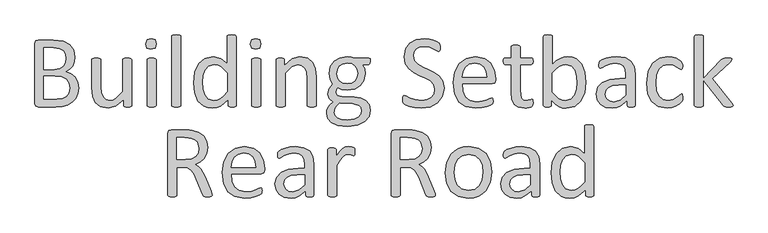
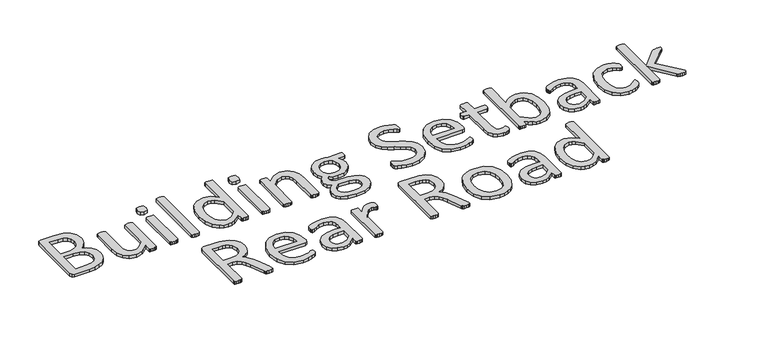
"""IFC4 building model written with IfcOpenShell, lengths in millimetres: proxy geometry, Marker-Setback Bldg Distance : Setback-Building-Rear Road."""

from ifc_helpers import new_model, si_unit, origin, origin_with_axes, place, context, project, spatial, polyline, outline, extrude, source, transform, mapped, element, save


def generic_models_8ed49101(model_context):
    return source(origin(), model_context, "Body", "SweptSolid", [
        extrude(outline(polyline([(2948.652928, 103.9978258), (2946.2704862, 86.8080563), (2939.5755234, 72.6340358), (2929.2013467, 61.6265518), (2915.5098461, 53.6649743), (2899.1946438, 48.8397759), (2879.2907001, 47.2414289), (2827.2388718, 47.2414289), (2820.5740664, 49.6540281), (2817.4075299, 58.0981254), (2817.4075299, 237.1129882), (2820.6042239, 245.5570855), (2827.3595017, 247.9696848), (2872.9576272, 247.9696848), (2902.4818102, 244.5015734), (2921.6318166, 234.4289716), (2933.1821354, 218.2042418), (2937.0724517, 196.4606912), (2935.3534747, 182.6184031), (2930.3171738, 170.4046195), (2921.9333915, 160.3923327), (2910.3529152, 153.1545351), (2925.3110304, 147.5753993), (2937.4343416, 137.2313801), (2945.6371789, 122.5446823), (2948.652928, 103.9978258)]), holes=[polyline([(2910.0513403, 192.8417924), (2908.0307885, 206.1714031), (2901.6977155, 216.2741624), (2890.4188141, 222.6072354), (2871.9925875, 224.8087322), (2844.4286413, 224.8087322), (2844.4286413, 159.1860331), (2874.7670766, 159.1860331), (2891.4743262, 161.9303648), (2901.9992904, 169.2887924), (2908.1212609, 180.085174), (2910.0513403, 192.8417924)]), polyline([(2921.6318166, 103.7565658), (2918.7970125, 119.3178309), (2910.5037027, 130.5967323), (2896.812202, 137.5329551), (2876.0940062, 139.8852393), (2844.4286413, 139.8852393), (2844.4286413, 70.4023815), (2882.849284, 70.4023815), (2898.7121239, 72.5435633), (2910.6243326, 78.8766363), (2918.70654, 89.311128), (2921.6318166, 103.7565658)])]), origin_with_axes(), (0.0, 0.0, 1.0), 10.0),
        extrude(outline(polyline([(3106.9194374, 51.9459974), (3106.3464451, 49.8952881), (3104.3258932, 48.4477285), (3100.495892, 47.5430038), (3094.7358113, 47.2414289), (3088.5836833, 47.5430038), (3084.8441545, 48.4477285), (3082.9743901, 49.8952881), (3082.4918702, 51.9459974), (3082.4918702, 70.1008066), (3059.3610751, 49.7746581), (3036.23028, 43.3812701), (3013.1899574, 48.0255236), (2998.0508972, 60.6011971), (2989.7575873, 79.1178962), (2987.2545156, 104.8422355), (2987.2545156, 189.1625786), (2987.827508, 191.2132879), (2990.0290048, 192.7513199), (2994.2510534, 193.6862021), (3000.7650713, 193.927462), (3007.2790892, 193.6862021), (3011.4106654, 192.7814774), (3013.6121622, 191.2736029), (3014.275627, 189.1625786), (3014.275627, 109.0642841), (3015.9644465, 89.7333328), (3021.1515348, 77.3386043), (3029.957522, 69.3770268), (3042.382408, 66.5422227), (3051.527667, 68.2385816), (3060.6276897, 73.3276581), (3079.898326, 93.2617592), (3079.898326, 189.2228935), (3080.4713184, 191.2736029), (3082.6728152, 192.7814774), (3086.8345488, 193.6862021), (3093.4088817, 193.927462), (3099.9228996, 193.6862021), (3103.9941608, 192.7814774), (3106.1956576, 191.2736029), (3106.9194374, 189.2228935), (3106.9194374, 51.9459974)])), origin_with_axes(), (0.0, 0.0, 1.0), 10.0),
        extrude(outline(polyline([(3180.262454, 236.5701534), (3176.94513, 224.2357399), (3164.640874, 220.9485734), (3152.6381928, 224.1452674), (3149.3811838, 236.2082635), (3152.6985078, 248.5426771), (3165.0027639, 251.8298435), (3177.005445, 248.6331496), (3180.262454, 236.5701534)])), origin_with_axes(), (0.0, 0.0, 1.0), 10.0),
        extrude(outline(polyline([(3180.262454, 51.9459974), (3179.5989892, 49.8952881), (3177.4578074, 48.4477285), (3173.3865462, 47.5430038), (3166.6915833, 47.2414289), (3160.1172504, 47.5430038), (3155.9555167, 48.4477285), (3153.8143349, 49.8952881), (3153.2413426, 51.9459974), (3153.2413426, 189.2228935), (3153.8143349, 191.1831304), (3155.9555167, 192.7211624), (3160.1172504, 193.6258871), (3166.6915833, 193.927462), (3173.3865462, 193.6258871), (3177.4578074, 192.7211624), (3179.5989892, 191.1831304), (3180.262454, 189.2228935), (3180.262454, 51.9459974)])), origin_with_axes(), (0.0, 0.0, 1.0), 10.0),
        extrude(outline(polyline([(3253.6054705, 52.0063124), (3252.9420058, 49.955603), (3250.8008239, 48.477886), (3246.7295627, 47.5430038), (3240.0345999, 47.2414289), (3233.460267, 47.5430038), (3229.2985333, 48.477886), (3227.1573515, 49.955603), (3226.5843592, 52.0063124), (3226.5843592, 258.4644914), (3227.1573515, 260.6358307), (3229.2985333, 262.1738627), (3233.460267, 263.1087449), (3240.0345999, 263.4103198), (3246.7295627, 263.1087449), (3250.8008239, 262.1738627), (3252.9420058, 260.6358307), (3253.6054705, 258.4644914), (3253.6054705, 52.0063124)])), origin_with_axes(), (0.0, 0.0, 1.0), 10.0),
        extrude(outline(polyline([(3419.5922975, 52.0666274), (3419.0193052, 49.8651306), (3417.0590683, 48.3874135), (3413.410012, 47.5430038), (3407.8911913, 47.2414289), (3402.1612681, 47.5430038), (3398.4217393, 48.3270986), (3396.310715, 49.6841856), (3395.6472502, 51.7047375), (3395.6472502, 68.834192), (3373.2402348, 50.1063905), (3361.0792268, 45.0625502), (3347.8174704, 43.3812701), (3333.8545524, 44.8816053), (3322.1232887, 49.3826107), (3304.9033617, 65.6073405), (3295.2529647, 89.6730178), (3292.2070582, 118.774996), (3296.006902, 151.4958731), (3307.2254884, 176.4059601), (3325.6215575, 192.2386426), (3351.0141644, 197.7876208), (3372.9386599, 192.38943), (3392.5711861, 176.5567476), (3392.5711861, 258.4041764), (3393.1441785, 260.5152008), (3395.3456753, 262.0833903), (3399.5074089, 263.0182725), (3405.9007969, 263.4103198), (3412.5957598, 263.0182725), (3416.6670209, 262.0833903), (3418.8685177, 260.5453582), (3419.5922975, 258.4644914), (3419.5922975, 52.0666274)]), holes=[polyline([(3392.5711861, 149.0531164), (3373.2100773, 168.0824928), (3363.6652316, 172.9906243), (3353.7283386, 174.6266682), (3337.7448687, 170.0427297), (3327.0691171, 157.949576), (3321.097934, 140.9407515), (3319.2281696, 121.6701151), (3320.7963591, 101.2836516), (3326.2548648, 83.6113623), (3336.5687265, 71.2166337), (3352.7029839, 66.5422227), (3362.1724359, 67.8993098), (3371.5212579, 72.3927759), (3381.5033872, 80.5352983), (3392.5711861, 92.8998693), (3392.5711861, 149.0531164)])]), origin_with_axes(), (0.0, 0.0, 1.0), 10.0),
        extrude(outline(polyline([(3492.9353141, 236.5701534), (3489.6179901, 224.2357399), (3477.3137341, 220.9485734), (3465.3110529, 224.1452674), (3462.0540439, 236.2082635), (3465.3713679, 248.5426771), (3477.675624, 251.8298435), (3489.6783051, 248.6331496), (3492.9353141, 236.5701534)])), origin_with_axes(), (0.0, 0.0, 1.0), 10.0),
        extrude(outline(polyline([(3492.9353141, 51.9459974), (3492.2718493, 49.8952881), (3490.1306675, 48.4477285), (3486.0594063, 47.5430038), (3479.3644434, 47.2414289), (3472.7901105, 47.5430038), (3468.6283768, 48.4477285), (3466.487195, 49.8952881), (3465.9142027, 51.9459974), (3465.9142027, 189.2228935), (3466.487195, 191.1831304), (3468.6283768, 192.7211624), (3472.7901105, 193.6258871), (3479.3644434, 193.927462), (3486.0594063, 193.6258871), (3490.1306675, 192.7211624), (3492.2718493, 191.1831304), (3492.9353141, 189.2228935), (3492.9353141, 51.9459974)])), origin_with_axes(), (0.0, 0.0, 1.0), 10.0),
        extrude(outline(polyline([(3658.922141, 52.0063124), (3658.2586763, 49.955603), (3656.1174944, 48.477886), (3652.0462332, 47.5430038), (3645.4719003, 47.2414289), (3638.7769375, 47.5430038), (3634.7056763, 48.4477285), (3632.5644945, 49.8952881), (3631.9010297, 52.0063124), (3631.9010297, 132.5871266), (3630.1217378, 151.5260306), (3624.9648069, 163.9207591), (3616.1889772, 171.8823366), (3603.7339337, 174.6266682), (3585.428337, 167.9015478), (3566.2783306, 148.1483917), (3566.2783306, 52.0063124), (3565.6148659, 49.8952881), (3563.473684, 48.4477285), (3559.4024228, 47.5430038), (3552.70746, 47.2414289), (3546.1331271, 47.5430038), (3541.9713934, 48.4477285), (3539.8302116, 49.8952881), (3539.2572193, 51.9459974), (3539.2572193, 189.2228935), (3539.7397391, 191.2736029), (3541.699976, 192.7814774), (3545.4696623, 193.6862021), (3551.5614754, 193.927462), (3557.5326584, 193.6862021), (3561.2118723, 192.7814774), (3563.1117942, 191.2736029), (3563.6847865, 189.2228935), (3563.6847865, 171.0680843), (3586.7552666, 191.3640754), (3609.9463767, 197.7876208), (3632.9866993, 193.0830523), (3648.1257595, 180.5073788), (3656.4190693, 162.0811522), (3658.922141, 136.6885453), (3658.922141, 52.0063124)])), origin_with_axes(), (0.0, 0.0, 1.0), 10.0),
        extrude(outline(polyline([(3821.0488092, 184.2167501), (3819.5710922, 176.88848), (3815.8014059, 174.6266682), (3795.8371473, 174.6266682), (3803.4368349, 162.1414672), (3805.6081742, 147.9674467), (3801.7480154, 126.4953136), (3790.6802165, 110.6927886), (3773.5507619, 100.8312893), (3751.5659514, 97.4234929), (3735.3713791, 99.6853046), (3723.5194854, 105.3850703), (3718.694287, 99.0821548), (3716.8245225, 90.9094749), (3721.9512959, 81.9828578), (3735.5824816, 78.122699), (3772.6158797, 76.5545095), (3792.0373035, 73.629233), (3807.3271511, 66.1803328), (3817.4299104, 54.3284391), (3821.0488092, 38.0132368), (3817.0077055, 19.3457503), (3804.612977, 3.7844853), (3783.3217888, -6.8007938), (3752.7722511, -10.6609526), (3723.8512178, -7.7658335), (3704.309164, 0.135429), (3693.2413651, 12.1079526), (3689.8034112, 27.1565403), (3691.0398683, 37.1989846), (3694.8397121, 46.4271767), (3701.1727851, 54.7808015), (3709.8882998, 62.682064), (3697.6443587, 72.6038783), (3693.6635699, 85.5414417), (3697.7649886, 102.7010537), (3707.8979054, 116.2417669), (3700.2982178, 129.2094877), (3697.5237287, 146.7611471), (3701.5346749, 168.2031228), (3712.6929464, 184.2469076), (3729.8224009, 194.2893519), (3751.5659514, 197.7876208), (3763.3876877, 196.7622661), (3773.7015494, 193.927462), (3815.8014059, 193.927462), (3819.7218797, 191.5450203), (3821.0488092, 184.2167501)]), holes=[polyline([(3782.4472216, 147.7865018), (3780.411591, 160.6712895), (3774.3046992, 170.3744621), (3764.4431998, 176.4587357), (3751.1437466, 178.486827), (3737.6935059, 175.9535978), (3728.1637389, 169.017375), (3722.5242882, 158.8543007), (3720.6846813, 146.8214621), (3722.7203119, 134.2759461), (3728.8272037, 124.7461791), (3738.5982306, 118.7297598), (3751.6262664, 116.7242867), (3765.3479245, 119.1670434), (3774.968164, 125.9524788), (3780.6076147, 135.9647656), (3782.4472216, 147.7865018)]), polyline([(3794.0276979, 37.1688271), (3792.1579335, 45.6657), (3786.5486403, 51.9761549), (3766.3431217, 57.4949756), (3729.6716134, 58.8219052), (3721.3783036, 50.9809577), (3716.2515302, 43.86379), (3713.6579861, 37.1989846), (3712.9643638, 30.4135493), (3715.557908, 20.9817942), (3723.3385405, 14.158662), (3735.7634265, 10.0195464), (3752.2897312, 8.6398412), (3772.0730449, 11.022283), (3784.9201358, 17.3855134), (3791.9166736, 26.462918), (3794.0276979, 37.1688271)])]), origin_with_axes(), (0.0, 0.0, 1.0), 10.0),
        extrude(outline(polyline([(4041.077859, 103.153416), (4035.8907706, 77.8211241), (4021.4453327, 58.9726927), (3999.7017822, 47.3017439), (3972.8013008, 43.3812701), (3954.1036567, 44.8891447), (3938.7233367, 48.598516), (3927.3841203, 53.152297), (3921.0208898, 57.1632432), (3918.3971881, 61.8074967), (3917.5527784, 69.7389167), (3917.8543533, 75.6196273), (3918.7892355, 79.3893136), (3920.357425, 81.4098655), (3922.5589218, 81.9828578), (3928.7412073, 79.5702586), (3939.0249116, 74.3228552), (3954.1338142, 69.0151369), (3974.5504352, 66.5422227), (3990.6243776, 68.894507), (4003.1397361, 75.5291549), (4011.2219435, 86.0239615), (4014.0567476, 100.197982), (4010.0759589, 114.9148373), (3999.6113097, 125.6207464), (3984.8039819, 134.0648437), (3967.7348424, 141.9057912), (3950.7561753, 150.7419358), (3936.0091625, 162.1414672), (3925.4540409, 177.5821023), (3921.4129372, 198.7526605), (3926.0270332, 221.4009358), (3938.8439666, 238.0478704), (3958.3860204, 248.3014172), (3982.8739025, 251.8298435), (3996.4146157, 250.5330714), (4009.2315491, 247.0951175), (4019.9676157, 242.3000766), (4026.1499012, 238.0177129), (4028.0799806, 235.5146412), (4028.8640754, 233.282987), (4029.3465952, 229.9958205), (4029.4973827, 225.0499921), (4029.2561227, 219.9232187), (4028.5625004, 216.1836899), (4027.2355709, 213.9520356), (4025.275334, 213.2282559), (4019.8469857, 215.5805401), (4010.7997386, 220.8581009), (3998.1335927, 226.2261342), (3981.7279179, 228.6688909), (3966.9809051, 226.4673941), (3956.6067284, 220.616841), (3950.4847579, 211.9314838), (3948.4340486, 201.2858897), (3952.3545223, 186.7499793), (3962.8191715, 175.9535978), (3977.6868142, 167.3285555), (3994.6654813, 159.4272931), (4011.6743058, 150.6514634), (4026.5419486, 139.372562), (4037.0669127, 124.0525569), (4041.077859, 103.153416)])), origin_with_axes(), (0.0, 0.0, 1.0), 10.0),
        extrude(outline(polyline([(4195.4842096, 127.7619282), (4192.4986181, 119.2575159), (4185.6528678, 116.7242867), (4095.1200817, 116.7242867), (4097.3818935, 94.4077438), (4104.8911086, 77.3989193), (4118.5826092, 66.4819078), (4139.2103326, 62.682064), (4156.3397871, 64.4613559), (4169.367823, 68.4723021), (4178.3849126, 72.4832483), (4183.7227884, 74.2625403), (4185.5925528, 73.7498629), (4186.8893249, 72.2419884), (4187.5527897, 69.4373418), (4187.7638921, 65.0343482), (4187.6131046, 61.8074967), (4187.2210573, 59.36474), (4186.46712, 57.4045032), (4185.1100329, 55.7458412), (4180.194362, 52.8205646), (4169.6090829, 48.6588309), (4154.5303377, 45.0097746), (4136.2548985, 43.3812701), (4106.7910305, 48.2064686), (4085.5299997, 62.561434), (4072.5019639, 86.4763239), (4068.0989703, 119.8606657), (4072.7130663, 152.4307553), (4086.0125196, 176.9186375), (4107.0021329, 192.38943), (4134.5660791, 197.7876208), (4162.3109702, 192.570375), (4181.1594017, 178.5169845), (4192.0160982, 157.7987886), (4195.4842096, 132.4061817), (4195.4842096, 127.7619282)]), holes=[polyline([(4168.4630983, 136.0250805), (4166.5104008, 153.7350668), (4159.8078985, 167.1777681), (4148.5214577, 175.6595622), (4132.8169446, 178.486827), (4116.7430023, 174.9885581), (4105.1926835, 165.6698936), (4097.9850433, 152.1291804), (4095.1200817, 136.0250805), (4168.4630983, 136.0250805)])]), origin_with_axes(), (0.0, 0.0, 1.0), 10.0),
        extrude(outline(polyline([(4307.4288139, 61.1138745), (4306.825664, 53.5745019), (4304.9860571, 49.4730832), (4301.3068433, 47.000169), (4295.7277076, 45.1002471), (4289.0629022, 43.86379), (4282.036207, 43.3812701), (4263.6702953, 46.3065467), (4251.1549368, 55.1426914), (4244.0377691, 70.1309641), (4241.8061148, 91.5729397), (4241.8061148, 174.6266682), (4223.4703607, 174.6266682), (4219.9419343, 176.88848), (4218.6451622, 184.2167501), (4219.0070521, 188.7102162), (4219.9419343, 191.7561227), (4221.4799663, 193.4449422), (4223.5909906, 193.927462), (4241.8061148, 193.927462), (4241.8061148, 227.5229063), (4242.3791071, 229.5434582), (4244.520289, 231.2021201), (4248.6820226, 232.2274748), (4255.2563555, 232.5290497), (4261.9513184, 232.2274748), (4266.0225796, 231.2021201), (4268.1637614, 229.5434582), (4268.8272262, 227.5229063), (4268.8272262, 193.927462), (4302.6036154, 193.927462), (4304.6241672, 193.4449422), (4306.1621993, 191.7561227), (4307.1272389, 188.7102162), (4307.4288139, 184.2167501), (4306.1018843, 176.88848), (4302.6036154, 174.6266682), (4268.8272262, 174.6266682), (4268.8272262, 95.9759333), (4272.8381724, 73.9911229), (4278.4399262, 68.4044478), (4287.2232953, 66.5422227), (4293.2246359, 67.235845), (4297.8990469, 68.6834045), (4301.4274733, 70.1611216), (4304.0511749, 70.8849013), (4306.4637742, 69.0151369), (4307.1272389, 65.9993879), (4307.4288139, 61.1138745)])), origin_with_axes(), (0.0, 0.0, 1.0), 10.0),
        extrude(outline(polyline([(4465.6953233, 122.3938949), (4461.8351645, 89.5222304), (4450.4657907, 64.6121434), (4432.0094065, 48.8397759), (4406.9485321, 43.3812701), (4394.8855359, 44.7081997), (4384.0288394, 49.0207208), (4373.4134028, 56.5299359), (4362.1948164, 67.4469474), (4362.1948164, 51.7047375), (4361.5313516, 49.6841856), (4359.3901698, 48.3270986), (4355.7109559, 47.5430038), (4350.0715052, 47.2414289), (4344.522527, 47.5430038), (4340.7528407, 48.3874135), (4338.7926038, 49.8651306), (4338.310084, 52.0063124), (4338.310084, 258.4644914), (4338.8830763, 260.6358307), (4341.0242581, 262.1738627), (4345.1859918, 263.1087449), (4351.7603247, 263.4103198), (4358.4552875, 263.1087449), (4362.5265487, 262.1738627), (4364.6677306, 260.6056732), (4365.3311954, 258.4644914), (4365.3311954, 174.6869832), (4377.0624591, 185.4532072), (4388.190573, 192.570375), (4399.0774271, 196.5511637), (4410.5674309, 197.7876208), (4424.3267859, 196.2646675), (4435.9298803, 191.6958077), (4453.0593348, 175.3806055), (4462.6795742, 151.4054006), (4465.6953233, 122.3938949)]), holes=[polyline([(4438.6742119, 119.4384608), (4437.1060224, 139.9757118), (4431.6173592, 157.6178436), (4421.27334, 169.9522572), (4405.1993976, 174.6266682), (4395.7902606, 173.2695811), (4386.3509661, 168.7459576), (4376.3688368, 160.6335927), (4365.3311954, 148.1483917), (4365.3311954, 92.1157746), (4384.8129341, 73.0863981), (4394.2974648, 68.1782666), (4404.1740429, 66.5422227), (4420.0670404, 71.1563188), (4430.8031069, 83.3399449), (4436.8044475, 100.3487694), (4438.6742119, 119.4384608)])]), origin_with_axes(), (0.0, 0.0, 1.0), 10.0),
        extrude(outline(polyline([(4612.3813564, 51.8856824), (4611.0544268, 49.0810358), (4607.435528, 47.6937913), (4600.6802502, 47.2414289), (4593.8344998, 47.6937913), (4590.1251285, 49.0810358), (4588.9791439, 51.8856824), (4588.9791439, 65.758128), (4568.6529954, 49.7143431), (4557.1026766, 44.9645384), (4544.888893, 43.3812701), (4524.9547919, 46.2462317), (4509.7855742, 54.5395416), (4500.0447048, 67.8691523), (4496.5765934, 85.8430166), (4501.3716344, 106.289795), (4515.12345, 120.7050754), (4537.0479455, 129.2999602), (4566.2403962, 132.1649218), (4585.3602451, 132.1649218), (4585.3602451, 143.6850831), (4583.6714256, 158.7638283), (4578.2430773, 169.6808398), (4568.5625229, 176.2551727), (4553.9361401, 178.486827), (4537.1987329, 176.0742277), (4524.2310121, 170.7665094), (4514.9123476, 165.4587911), (4509.3633693, 163.0461919), (4507.19203, 163.6794992), (4505.593683, 165.6095786), (4504.5984859, 168.9269025), (4504.296911, 173.3600536), (4504.8397458, 179.6931266), (4507.4936049, 184.1262777), (4514.7314026, 188.6499012), (4526.5531388, 193.1132098), (4541.1795217, 196.4606912), (4557.1931491, 197.7876208), (4582.8270159, 194.3798244), (4599.9263129, 184.4278526), (4609.4259224, 168.1729653), (4612.3813564, 145.4945325), (4612.3813564, 51.8856824)]), holes=[polyline([(4585.3602451, 112.8641279), (4563.8881119, 112.8641279), (4545.9745626, 111.084836), (4533.3385742, 105.8374327), (4525.949989, 97.5139653), (4523.5977048, 86.3255364), (4525.2865242, 76.584667), (4530.3529826, 69.0754519), (4538.4653475, 64.280411), (4549.2918866, 62.682064), (4567.6276407, 67.7786798), (4585.3602451, 83.3701024), (4585.3602451, 112.8641279)])]), origin_with_axes(), (0.0, 0.0, 1.0), 10.0),
        extrude(outline(polyline([(4755.2072308, 74.98632), (4755.0564433, 70.7642714), (4754.5136085, 67.7485223), (4753.6088838, 65.3057656), (4751.1962846, 61.6868668), (4744.7124241, 55.8061562), (4734.4287199, 49.5635557), (4722.0339914, 45.1002471), (4708.1615458, 43.3812701), (4681.9848442, 48.3874135), (4662.8951528, 63.0137964), (4651.163889, 86.5969538), (4647.1227853, 118.835311), (4652.0686137, 154.5719371), (4665.6093269, 179.0296618), (4685.8450029, 193.1735248), (4711.0566649, 197.7876208), (4723.7831258, 196.4305337), (4735.1223422, 192.8719499), (4744.3505343, 187.8054915), (4750.2010874, 182.8898206), (4752.7041591, 179.6629691), (4753.8501437, 177.0995824), (4754.4532935, 173.9330459), (4754.604081, 169.4998948), (4753.2469939, 161.4780024), (4749.9598275, 159.1860331), (4744.7425816, 161.5986324), (4737.2936815, 166.9063507), (4726.3465125, 172.214069), (4711.2376098, 174.6266682), (4695.3672305, 171.1283993), (4683.7038211, 160.6335927), (4676.5338778, 143.4739807), (4674.1438967, 119.9812957), (4676.6168109, 96.6393981), (4683.9149236, 79.8718335), (4695.7668173, 69.8293892), (4711.8407596, 66.5422227), (4726.8893473, 69.5881293), (4738.1079338, 76.2830921), (4746.0996687, 82.8875825), (4751.1661271, 85.8430166), (4752.945419, 85.2700243), (4754.2421911, 83.3399449), (4754.9961284, 79.901991), (4755.2072308, 74.98632)])), origin_with_axes(), (0.0, 0.0, 1.0), 10.0),
        extrude(outline(polyline([(4905.7534227, 52.1269423), (4905.1201154, 49.9857605), (4903.0392486, 48.4477285), (4898.9679874, 47.5430038), (4892.303182, 47.2414289), (4885.4272742, 47.4826888), (4880.8433356, 48.2366261), (4877.8275866, 49.7445006), (4875.7165623, 52.1269423), (4816.9697711, 128.0635031), (4816.9697711, 51.9459974), (4816.3063063, 49.8952881), (4814.1651244, 48.4477285), (4810.0938633, 47.5430038), (4803.3989004, 47.2414289), (4796.8245675, 47.5430038), (4792.6628338, 48.477886), (4790.521652, 49.955603), (4789.9486597, 52.0063124), (4789.9486597, 258.4644914), (4790.521652, 260.6358307), (4792.6628338, 262.1738627), (4796.8245675, 263.1087449), (4803.3989004, 263.4103198), (4810.0938633, 263.1087449), (4814.1651244, 262.1738627), (4816.3063063, 260.6056732), (4816.9697711, 258.4041764), (4816.9697711, 131.561772), (4870.6501039, 188.6197437), (4873.3341205, 191.1228154), (4876.7117595, 192.7814774), (4881.356013, 193.6862021), (4887.8398734, 193.927462), (4894.4745213, 193.6862021), (4898.7870424, 192.9322649), (4901.1694842, 191.5751778), (4901.8932639, 189.3435235), (4900.8377518, 185.6944672), (4897.3093254, 181.442261), (4843.9908824, 131.7427169), (4901.9535789, 59.304425), (4904.8788555, 55.1125339), (4905.7534227, 52.1269423)])), origin_with_axes(), (0.0, 0.0, 1.0), 10.0),
        extrude(outline(polyline([(3347.5158955, -217.3559155), (3347.0635332, -219.4669398), (3345.0731388, -221.0049718), (3340.7304602, -221.939854), (3333.2815601, -222.2414289), (3326.7373847, -221.939854), (3322.635966, -220.9446568), (3320.2535243, -219.0447349), (3318.8059647, -215.9686709), (3300.4098956, -169.5261357), (3293.7450902, -154.9902254), (3285.6628828, -143.5605365), (3274.6553988, -136.1116364), (3259.3957087, -133.4577773), (3242.0249942, -133.4577773), (3242.0249942, -217.3559155), (3241.331372, -219.4970973), (3239.1298752, -220.9446568), (3235.0284565, -221.8493815), (3228.5144386, -222.2414289), (3222.0004206, -221.8493815), (3217.838687, -220.9144993), (3215.6371902, -219.4669398), (3215.0038829, -217.2956005), (3215.0038829, -32.3095546), (3218.1101044, -23.8956148), (3224.7749098, -21.513173), (3266.6335064, -21.513173), (3278.9980774, -21.9052204), (3287.9246946, -22.7797876), (3308.1000556, -29.1128606), (3322.8169109, -40.1505021), (3331.7133706, -55.4705072), (3334.6688046, -74.4697261), (3332.045103, -92.5642203), (3324.4454154, -106.7080833), (3312.5332067, -117.3235199), (3296.9719417, -124.953365), (3305.9588738, -130.4118707), (3313.4680889, -138.3131332), (3320.0122643, -148.8984123), (3326.2247073, -162.408968), (3344.1382566, -206.137329), (3346.9127457, -213.8576466), (3347.5158955, -217.3559155)]), holes=[polyline([(3307.6476933, -77.3648452), (3302.4907624, -58.0037364), (3295.5771578, -51.2032223), (3285.1502055, -46.604205), (3276.5854782, -45.126488), (3264.0399622, -44.6741256), (3242.0249942, -44.6741256), (3242.0249942, -110.2968247), (3267.5382311, -110.2968247), (3285.3914654, -107.8239105), (3297.9369814, -100.8876877), (3305.295409, -90.4230385), (3307.6476933, -77.3648452)])]), origin_with_axes(), (0.0, 0.0, 1.0), 10.0),
        extrude(outline(polyline([(3504.5157904, -141.7209296), (3501.5301988, -150.2253419), (3494.6844485, -152.7585711), (3404.1516624, -152.7585711), (3406.4134742, -175.075114), (3413.9226893, -192.0839385), (3427.61419, -203.00095), (3448.2419134, -206.8007938), (3465.3713679, -205.0215019), (3478.3994037, -201.0105557), (3487.4164933, -196.9996095), (3492.7543691, -195.2203175), (3494.6241335, -195.7329949), (3495.9209056, -197.2408694), (3496.5843704, -200.045516), (3496.7954728, -204.4485096), (3496.6446854, -207.6753611), (3496.252638, -210.1181178), (3495.4987008, -212.0783546), (3494.1416137, -213.7370166), (3489.2259428, -216.6622932), (3478.6406636, -220.8240269), (3463.5619185, -224.4730832), (3445.2864793, -226.1015877), (3415.8226112, -221.2763892), (3394.5615805, -206.9214238), (3381.5335447, -183.0065339), (3377.1305511, -149.6221921), (3381.7446471, -117.0521025), (3395.0441004, -92.5642203), (3416.0337137, -77.0934278), (3443.5976598, -71.695237), (3471.342551, -76.9124828), (3490.1909825, -90.9658733), (3501.047679, -111.6840692), (3504.5157904, -137.0766761), (3504.5157904, -141.7209296)]), holes=[polyline([(3477.494679, -133.4577773), (3475.5419815, -115.747791), (3468.8394793, -102.3050897), (3457.5530385, -93.8232956), (3441.8485254, -90.9960308), (3425.774583, -94.4942997), (3414.2242642, -103.8129642), (3407.016624, -117.3536774), (3404.1516624, -133.4577773), (3477.494679, -133.4577773)])]), origin_with_axes(), (0.0, 0.0, 1.0), 10.0),
        extrude(outline(polyline([(3651.2018235, -217.5971754), (3649.8748939, -220.401822), (3646.2559951, -221.7890665), (3639.5007173, -222.2414289), (3632.6549669, -221.7890665), (3628.9455956, -220.401822), (3627.799611, -217.5971754), (3627.799611, -203.7247298), (3607.4734625, -219.7685147), (3595.9231437, -224.5183194), (3583.7093601, -226.1015877), (3563.7752589, -223.2366261), (3548.6060413, -214.9433162), (3538.8651719, -201.6137055), (3535.3970605, -183.6398412), (3540.1921015, -163.1930628), (3553.9439171, -148.7777824), (3575.8684126, -140.1828976), (3605.0608633, -137.317936), (3624.1807121, -137.317936), (3624.1807121, -125.7977747), (3622.4918927, -110.7190295), (3617.0635444, -99.802018), (3607.38299, -93.2276851), (3592.7566072, -90.9960308), (3576.0192, -93.4086301), (3563.0514792, -98.7163484), (3553.7328147, -104.0240667), (3548.1838364, -106.4366659), (3546.0124971, -105.8033586), (3544.4141501, -103.8732792), (3543.418953, -100.5559553), (3543.117378, -96.1228042), (3543.6602129, -89.7897312), (3546.314072, -85.3565801), (3553.5518697, -80.8329566), (3565.3736059, -76.369648), (3579.9999888, -73.0221666), (3596.0136161, -71.695237), (3621.647483, -75.1030334), (3638.74678, -85.0550052), (3648.2463895, -101.3098925), (3651.2018235, -123.9883253), (3651.2018235, -217.5971754)]), holes=[polyline([(3624.1807121, -156.6187299), (3602.708579, -156.6187299), (3584.7950297, -158.3980218), (3572.1590413, -163.6454251), (3564.7704561, -171.9688925), (3562.4181719, -183.1573214), (3564.1069913, -192.8981908), (3569.1734497, -200.4074059), (3577.2858146, -205.2024468), (3588.1123537, -206.8007938), (3606.4481078, -201.704178), (3624.1807121, -186.1127554), (3624.1807121, -156.6187299)])]), origin_with_axes(), (0.0, 0.0, 1.0), 10.0),
        extrude(outline(polyline([(3774.726904, -87.1358721), (3774.5761166, -92.6245353), (3773.9729668, -96.1831192), (3772.8571396, -98.203671), (3770.9873752, -98.8972933), (3768.0620987, -98.203671), (3764.1717824, -96.8164265), (3759.3164265, -95.4894969), (3753.4960308, -94.8561896), (3746.1376032, -96.5148516), (3738.5680731, -101.9431998), (3730.2747633, -111.9554866), (3720.6846813, -127.2453343), (3720.6846813, -217.5368604), (3720.0212165, -219.5875697), (3717.8800347, -221.0351293), (3713.8087735, -221.939854), (3707.1138107, -222.2414289), (3700.5394778, -221.939854), (3696.3777441, -221.0351293), (3694.2365623, -219.5875697), (3693.6635699, -217.5368604), (3693.6635699, -80.2599643), (3694.1460898, -78.2092549), (3696.1063267, -76.7013804), (3699.876013, -75.7966557), (3705.967826, -75.5553958), (3711.9390091, -75.7966557), (3715.6182229, -76.7013804), (3717.5181448, -78.2092549), (3718.0911371, -80.2599643), (3718.0911371, -100.2845379), (3728.5256288, -85.9898874), (3737.7839784, -77.2743727), (3746.4090206, -72.9015366), (3755.0642203, -71.695237), (3759.4672139, -71.9063394), (3764.6543023, -72.7205917), (3769.5398157, -74.0776787), (3772.6158797, -75.5553958), (3773.8221793, -76.9426403), (3774.3650142, -78.6616173), (3774.6665891, -81.7075238), (3774.726904, -87.1358721)])), origin_with_axes(), (0.0, 0.0, 1.0), 10.0),
        extrude(outline(polyline([(4015.3233622, -217.3559155), (4014.8709998, -219.4669398), (4012.8806055, -221.0049718), (4008.5379268, -221.939854), (4001.0890267, -222.2414289), (3994.5448513, -221.939854), (3990.4434326, -220.9446568), (3988.0609909, -219.0447349), (3986.6134314, -215.9686709), (3968.2173622, -169.5261357), (3961.5525569, -154.9902254), (3953.4703494, -143.5605365), (3942.4628655, -136.1116364), (3927.2031753, -133.4577773), (3909.8324609, -133.4577773), (3909.8324609, -217.3559155), (3909.1388386, -219.4970973), (3906.9373418, -220.9446568), (3902.8359231, -221.8493815), (3896.3219052, -222.2414289), (3889.8078873, -221.8493815), (3885.6461536, -220.9144993), (3883.4446568, -219.4669398), (3882.8113495, -217.2956005), (3882.8113495, -32.3095546), (3885.917571, -23.8956148), (3892.5823764, -21.513173), (3934.440973, -21.513173), (3946.8055441, -21.9052204), (3955.7321612, -22.7797876), (3975.9075223, -29.1128606), (3990.6243776, -40.1505021), (3999.5208372, -55.4705072), (4002.4762713, -74.4697261), (3999.8525696, -92.5642203), (3992.2528821, -106.7080833), (3980.3406734, -117.3235199), (3964.7794083, -124.953365), (3973.7663405, -130.4118707), (3981.2755556, -138.3131332), (3987.819731, -148.8984123), (3994.032174, -162.408968), (4011.9457233, -206.137329), (4014.7202124, -213.8576466), (4015.3233622, -217.3559155)]), holes=[polyline([(3975.4551599, -77.3648452), (3970.2982291, -58.0037364), (3963.3846244, -51.2032223), (3952.9576721, -46.604205), (3944.3929448, -45.126488), (3931.8474288, -44.6741256), (3909.8324609, -44.6741256), (3909.8324609, -110.2968247), (3935.3456977, -110.2968247), (3953.198932, -107.8239105), (3965.744448, -100.8876877), (3973.1028757, -90.4230385), (3975.4551599, -77.3648452)])]), origin_with_axes(), (0.0, 0.0, 1.0), 10.0),
        extrude(outline(polyline([(4183.9037333, -147.3905378), (4179.4404247, -179.0257452), (4166.0806565, -203.9358322), (4156.0683697, -213.2469574), (4143.8244286, -220.2510345), (4129.4016089, -224.6389494), (4112.852686, -226.1015877), (4082.9967706, -220.9446568), (4061.7658973, -205.9563841), (4049.0997514, -182.0716517), (4044.9380177, -150.2253419), (4049.3410113, -118.5901345), (4062.6103071, -93.710205), (4072.584897, -84.4367767), (4084.7760625, -77.4854751), (4099.1838035, -73.1427965), (4115.8081201, -71.695237), (4145.694193, -76.8521679), (4166.9250662, -91.8404406), (4179.6515272, -115.7251729), (4183.9037333, -147.3905378)]), holes=[polyline([(4156.882622, -149.1999872), (4154.8017551, -128.2405314), (4147.9560048, -110.930132), (4135.0787564, -99.1687107), (4114.7827654, -94.8561896), (4095.5121291, -98.8068208), (4082.2428333, -109.9650923), (4074.4923583, -127.0342318), (4071.9591291, -148.5968374), (4074.0399959, -169.6769232), (4080.9460612, -186.9270077), (4093.9137821, -198.6281139), (4114.1796156, -202.9406351), (4133.389937, -198.9900038), (4146.7497052, -187.9222049), (4154.4398652, -170.9133803), (4156.882622, -149.1999872)])]), origin_with_axes(), (0.0, 0.0, 1.0), 10.0),
        extrude(outline(polyline([(4326.7296077, -217.5971754), (4325.4026781, -220.401822), (4321.7837793, -221.7890665), (4315.0285014, -222.2414289), (4308.1827511, -221.7890665), (4304.4733798, -220.401822), (4303.3273952, -217.5971754), (4303.3273952, -203.7247298), (4283.0012467, -219.7685147), (4271.4509278, -224.5183194), (4259.2371442, -226.1015877), (4239.3030431, -223.2366261), (4224.1338255, -214.9433162), (4214.3929561, -201.6137055), (4210.9248447, -183.6398412), (4215.7198857, -163.1930628), (4229.4717013, -148.7777824), (4251.3961968, -140.1828976), (4280.5886474, -137.317936), (4299.7084963, -137.317936), (4299.7084963, -125.7977747), (4298.0196769, -110.7190295), (4292.5913286, -99.802018), (4282.9107742, -93.2276851), (4268.2843914, -90.9960308), (4251.5469842, -93.4086301), (4238.5792633, -98.7163484), (4229.2605988, -104.0240667), (4223.7116206, -106.4366659), (4221.5402813, -105.8033586), (4219.9419343, -103.8732792), (4218.9467371, -100.5559553), (4218.6451622, -96.1228042), (4219.187997, -89.7897312), (4221.8418562, -85.3565801), (4229.0796539, -80.8329566), (4240.9013901, -76.369648), (4255.5277729, -73.0221666), (4271.5414003, -71.695237), (4297.1752671, -75.1030334), (4314.2745642, -85.0550052), (4323.7741736, -101.3098925), (4326.7296077, -123.9883253), (4326.7296077, -217.5971754)]), holes=[polyline([(4299.7084963, -156.6187299), (4278.2363632, -156.6187299), (4260.3228139, -158.3980218), (4247.6868254, -163.6454251), (4240.2982403, -171.9688925), (4237.9459561, -183.1573214), (4239.6347755, -192.8981908), (4244.7012339, -200.4074059), (4252.8135988, -205.2024468), (4263.6401378, -206.8007938), (4281.975892, -201.704178), (4299.7084963, -186.1127554), (4299.7084963, -156.6187299)])]), origin_with_axes(), (0.0, 0.0, 1.0), 10.0),
        extrude(outline(polyline([(4488.8562759, -217.4162304), (4488.2832836, -219.6177272), (4486.3230467, -221.0954443), (4482.6739904, -221.939854), (4477.1551696, -222.2414289), (4471.4252465, -221.939854), (4467.6857176, -221.1557592), (4465.5746933, -219.7986722), (4464.9112285, -217.7781203), (4464.9112285, -200.6486658), (4442.5042132, -219.3764673), (4430.3432052, -224.4203076), (4417.0814488, -226.1015877), (4403.1185308, -224.6012525), (4391.387267, -220.1002471), (4374.16734, -203.8755173), (4364.5169431, -179.80984), (4361.4710366, -150.7078618), (4365.2708804, -117.9869847), (4376.4894668, -93.0768977), (4394.8855359, -77.2442152), (4420.2781428, -71.695237), (4442.2026383, -77.0934278), (4461.8351645, -92.9261102), (4461.8351645, -11.0786814), (4462.4081568, -8.967657), (4464.6096536, -7.3994675), (4468.7713873, -6.4645853), (4475.1647753, -6.072538), (4481.8597381, -6.4645853), (4485.9309993, -7.3994675), (4488.1324961, -8.9374996), (4488.8562759, -11.0183664), (4488.8562759, -217.4162304)]), holes=[polyline([(4461.8351645, -120.4297414), (4442.4740557, -101.400365), (4432.92921, -96.4922335), (4422.9923169, -94.8561896), (4407.008847, -99.4401281), (4396.3330954, -111.5332818), (4390.3619124, -128.5421063), (4388.492148, -147.8127427), (4390.0603375, -168.1992062), (4395.5188432, -185.8714955), (4405.8327049, -198.2662241), (4421.9669623, -202.9406351), (4431.4364142, -201.583548), (4440.7852362, -197.0900819), (4450.7673656, -188.9475595), (4461.8351645, -176.5829885), (4461.8351645, -120.4297414)])]), origin_with_axes(), (0.0, 0.0, 1.0), 10.0),
    ])


if __name__ == "__main__":
    model = new_model("IFC4")
    model_context = context("Model", 3, world=origin())
    ifc_project = project(units=[si_unit("LENGTHUNIT", "METRE", prefix="MILLI")], contexts=[model_context])
    site = spatial("IfcSite", under=ifc_project)
    building = spatial("IfcBuilding", under=site)
    placement = place(None, origin())
    generic_models_shape = generic_models_8ed49101(model_context)
    element("IfcBuildingElementProxy", 1, Name="Marker-Setback Bldg Distance : Setback-Building-Rear Road", ObjectType="Marker-Setback Bldg Distance : Setback-Building-Rear Road", at=placement, inside=building, context=model_context, shape_type="MappedRepresentation", body=[
        mapped(generic_models_shape, transform((0.0, 0.0, 0.0), x_axis=(1.0, 0.0, 0.0), y_axis=(0.0, 1.0, 0.0), z_axis=(0.0, 0.0, 1.0))),
    ])
    save(model, "model.ifc")
